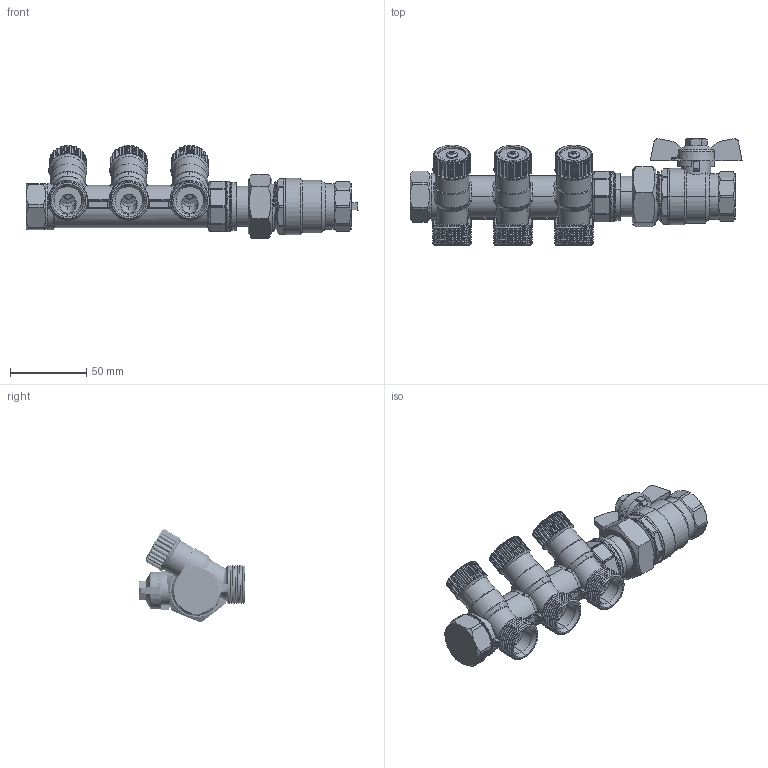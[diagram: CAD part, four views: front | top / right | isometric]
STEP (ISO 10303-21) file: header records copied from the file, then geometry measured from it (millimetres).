
FILE_DESCRIPTION (( 'STEP AP214' ), '1' );
FILE_NAME ('ADM203_Zestaw_podstawowy_rozdzielacza_do_wody_pitnej_2220300_0_3D_AFRISO.STEP', '2025-01-23T11:08:17', ( '' ), ( '' ), 'SwSTEP 2.0', 'SolidWorks 2024', '' );
FILE_SCHEMA (( 'AUTOMOTIVE_DESIGN' ));
Length unit declared in the file: millimetre
Products named in the file (26): 4761624; zawor_korpus_ADM; ADM203_Zestaw_podstawowy_rozdzielacza_do_wody_pitnej_2220300_0_3D_AFRISO; Guarnizione piatta Otturatore; Nut_screw; uszczelnienie1; 68512803FRLN; Asta vitone collettori; 68512803FR; M8_ADM; 3424693; o_ring_ADM; 9446820; ring_ADM; Body_screw_In; 68512803FRS; ADM_Nut; Corpo Vitone Coll; raczka_ADM; Zawor_ADM; Otturatore Vitone Coll; Seeger a filo Vitone; Screw_ADM; 9346615; OR Corpo Vitone_montato; OR Asta
Assembly tree (33 placements, depth 5):
  ADM203_Zestaw_podstawowy_rozdzielacza_do_wody_pitnej_2220300_0_3D_AFRISO
    68512803FR
      68512803FRS
        9446820  x3
          Corpo Vitone Coll
          Otturatore Vitone Coll
          Asta vitone collettori
          Seeger a filo Vitone
          Guarnizione piatta Otturatore
          OR Asta
          OR Corpo Vitone_montato
        68512803FRLN
        9346615  x3
        4761624  x3
        3424693
    uszczelnienie1
    ADM_Nut
    Zawor_ADM
      zawor_korpus_ADM
      raczka_ADM
      M8_ADM
      Screw_ADM
        Body_screw_In
        Nut_screw
        o_ring_ADM  x2
        ring_ADM
Bounding box: 217.79 x 70.1 x 61.17 mm (x, y, z)
Volume: 131893.9 mm3; surface area: 104067.7 mm2
Topology: 44 solids, 44 shells, 3181 faces, 8100 edges, 5085 vertices
Faces by surface type: cylinder 1184, plane 929, bspline 446, torus 318, cone 285, sphere 19
Entity records: 110406 total; most frequent: CARTESIAN_POINT 60717, ORIENTED_EDGE 9150, DIRECTION 7231, EDGE_CURVE 4575, AXIS2_PLACEMENT_3D 2923, VERTEX_POINT 2866, EDGE_LOOP 1909, ADVANCED_FACE 1807
